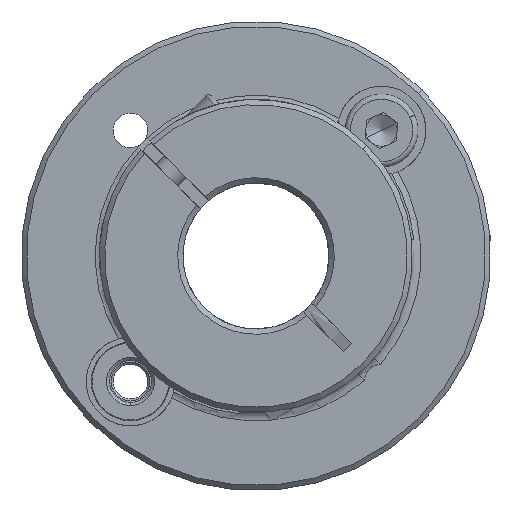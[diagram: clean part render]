
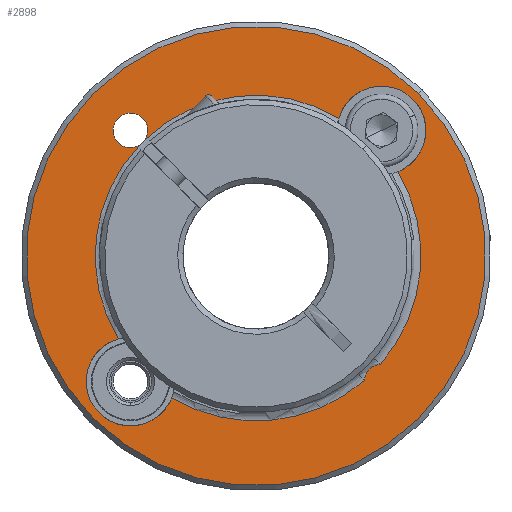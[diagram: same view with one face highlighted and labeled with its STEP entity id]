
A CAD part, front view. The second image highlights one B-rep face of the part: STEP entity #2898.
In plain terms, the highlighted planar face has unit normal (0, -1, 0).
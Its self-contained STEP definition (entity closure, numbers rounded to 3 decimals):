
#21 = ORIENTED_EDGE ( 'NONE', *, *, #5113, .T. ) ;
#34 = ORIENTED_EDGE ( 'NONE', *, *, #2094, .T. ) ;
#45 = VERTEX_POINT ( 'NONE', #7527 ) ;
#93 = DIRECTION ( 'NONE',  ( 0., 1., 0. ) ) ;
#120 = ORIENTED_EDGE ( 'NONE', *, *, #5640, .T. ) ;
#493 = DIRECTION ( 'NONE',  ( 0., -1., 0. ) ) ;
#520 = VERTEX_POINT ( 'NONE', #9230 ) ;
#554 = CIRCLE ( 'NONE', #5476, 1.65 ) ;
#558 = ORIENTED_EDGE ( 'NONE', *, *, #9501, .T. ) ;
#741 = VERTEX_POINT ( 'NONE', #6547 ) ;
#851 = DIRECTION ( 'NONE',  ( 0.707, 0., 0.707 ) ) ;
#1045 = VERTEX_POINT ( 'NONE', #5621 ) ;
#1048 = AXIS2_PLACEMENT_3D ( 'NONE', #6960, #7604, #5450 ) ;
#1092 = ORIENTED_EDGE ( 'NONE', *, *, #6207, .T. ) ;
#1093 = EDGE_CURVE ( 'NONE', #9019, #4302, #4985, .T. ) ;
#1151 = DIRECTION ( 'NONE',  ( 0., 1., 0. ) ) ;
#1235 = DIRECTION ( 'NONE',  ( 0.707, 0., 0.707 ) ) ;
#1354 = AXIS2_PLACEMENT_3D ( 'NONE', #3749, #3713, #6805 ) ;
#1368 = CARTESIAN_POINT ( 'NONE',  ( 17.924, -8.743, 65.536 ) ) ;
#1376 = AXIS2_PLACEMENT_3D ( 'NONE', #5942, #93, #851 ) ;
#1611 = CIRCLE ( 'NONE', #5304, 1.65 ) ;
#1647 = AXIS2_PLACEMENT_3D ( 'NONE', #4201, #7105, #1235 ) ;
#1811 = DIRECTION ( 'NONE',  ( 0.707, 0., 0.707 ) ) ;
#1823 = VERTEX_POINT ( 'NONE', #7981 ) ;
#1833 = DIRECTION ( 'NONE',  ( 0.707, 0., 0.707 ) ) ;
#1853 = CIRCLE ( 'NONE', #9078, 4.25 ) ;
#1887 = AXIS2_PLACEMENT_3D ( 'NONE', #4028, #1151, #3389 ) ;
#1903 = AXIS2_PLACEMENT_3D ( 'NONE', #4468, #6649, #2929 ) ;
#2094 = EDGE_CURVE ( 'NONE', #1823, #9111, #2612, .T. ) ;
#2117 = ORIENTED_EDGE ( 'NONE', *, *, #1093, .T. ) ;
#2122 = AXIS2_PLACEMENT_3D ( 'NONE', #4218, #7892, #3383 ) ;
#2263 = CARTESIAN_POINT ( 'NONE',  ( 2.367, -8.743, 49.979 ) ) ;
#2516 = DIRECTION ( 'NONE',  ( 0.707, 0., 0.707 ) ) ;
#2540 = CARTESIAN_POINT ( 'NONE',  ( -5.701, -8.743, 36.395 ) ) ;
#2575 = VERTEX_POINT ( 'NONE', #8324 ) ;
#2612 = CIRCLE ( 'NONE', #1048, 1.65 ) ;
#2617 = EDGE_CURVE ( 'NONE', #4302, #9019, #8262, .T. ) ;
#2656 = VERTEX_POINT ( 'NONE', #2540 ) ;
#2757 = CARTESIAN_POINT ( 'NONE',  ( 14.388, -8.743, 37.958 ) ) ;
#2898 = ADVANCED_FACE ( 'NONE', ( #7556, #3542 ), #8759, .T. ) ;
#2929 = DIRECTION ( 'NONE',  ( 0.707, 0., 0.707 ) ) ;
#2996 = CARTESIAN_POINT ( 'NONE',  ( 2.367, -8.743, 49.979 ) ) ;
#3031 = DIRECTION ( 'NONE',  ( 0.707, 0., 0.707 ) ) ;
#3104 = CARTESIAN_POINT ( 'NONE',  ( 12.742, -8.743, 38.062 ) ) ;
#3312 = DIRECTION ( 'NONE',  ( 0., 1., 0. ) ) ;
#3326 = ORIENTED_EDGE ( 'NONE', *, *, #6929, .T. ) ;
#3379 = CIRCLE ( 'NONE', #1887, 15.4 ) ;
#3383 = DIRECTION ( 'NONE',  ( -0.989, 0., -0.145 ) ) ;
#3389 = DIRECTION ( 'NONE',  ( 0.707, 0., 0.707 ) ) ;
#3420 = VERTEX_POINT ( 'NONE', #3104 ) ;
#3542 = FACE_OUTER_BOUND ( 'NONE', #6859, .T. ) ;
#3713 = DIRECTION ( 'NONE',  ( 0., 1., 0. ) ) ;
#3728 = AXIS2_PLACEMENT_3D ( 'NONE', #7936, #493, #7245 ) ;
#3749 = CARTESIAN_POINT ( 'NONE',  ( 14.388, -8.743, 62. ) ) ;
#3941 = CIRCLE ( 'NONE', #6792, 15.4 ) ;
#4028 = CARTESIAN_POINT ( 'NONE',  ( 2.367, -8.743, 49.979 ) ) ;
#4088 = CARTESIAN_POINT ( 'NONE',  ( -8.247, -8.743, 61.137 ) ) ;
#4201 = CARTESIAN_POINT ( 'NONE',  ( 2.367, -8.743, 49.979 ) ) ;
#4218 = CARTESIAN_POINT ( 'NONE',  ( 14.388, -8.743, 37.958 ) ) ;
#4302 = VERTEX_POINT ( 'NONE', #1368 ) ;
#4468 = CARTESIAN_POINT ( 'NONE',  ( -9.653, -8.743, 62. ) ) ;
#4638 = EDGE_CURVE ( 'NONE', #3420, #2656, #6910, .T. ) ;
#4718 = DIRECTION ( 'NONE',  ( 0., -1., 0. ) ) ;
#4754 = AXIS2_PLACEMENT_3D ( 'NONE', #8605, #4718, #2516 ) ;
#4799 = ORIENTED_EDGE ( 'NONE', *, *, #4876, .T. ) ;
#4876 = EDGE_CURVE ( 'NONE', #1045, #45, #8212, .T. ) ;
#4945 = EDGE_CURVE ( 'NONE', #2575, #8743, #3941, .T. ) ;
#4985 = CIRCLE ( 'NONE', #3728, 22. ) ;
#5010 = CARTESIAN_POINT ( 'NONE',  ( -8.79, -8.743, 60.594 ) ) ;
#5113 = EDGE_CURVE ( 'NONE', #9111, #520, #3379, .T. ) ;
#5304 = AXIS2_PLACEMENT_3D ( 'NONE', #2757, #6428, #5732 ) ;
#5450 = DIRECTION ( 'NONE',  ( 0.707, 0., 0.707 ) ) ;
#5476 = AXIS2_PLACEMENT_3D ( 'NONE', #8542, #3312, #1833 ) ;
#5621 = CARTESIAN_POINT ( 'NONE',  ( 15.952, -8.743, 58.048 ) ) ;
#5640 = EDGE_CURVE ( 'NONE', #520, #7947, #1853, .T. ) ;
#5732 = DIRECTION ( 'NONE',  ( 0., 0., -1. ) ) ;
#5937 = CARTESIAN_POINT ( 'NONE',  ( -10.82, -8.743, 60.833 ) ) ;
#5942 = CARTESIAN_POINT ( 'NONE',  ( -9.653, -8.743, 37.958 ) ) ;
#5955 = DIRECTION ( 'NONE',  ( 0., 1., 0. ) ) ;
#6207 = EDGE_CURVE ( 'NONE', #7947, #1045, #8078, .T. ) ;
#6281 = CARTESIAN_POINT ( 'NONE',  ( -13.189, -8.743, 34.423 ) ) ;
#6428 = DIRECTION ( 'NONE',  ( 0., -1., 0. ) ) ;
#6547 = CARTESIAN_POINT ( 'NONE',  ( -12.659, -8.743, 34.953 ) ) ;
#6649 = DIRECTION ( 'NONE',  ( 0., 1., 0. ) ) ;
#6683 = DIRECTION ( 'NONE',  ( 0., 1., 0. ) ) ;
#6739 = VERTEX_POINT ( 'NONE', #5937 ) ;
#6792 = AXIS2_PLACEMENT_3D ( 'NONE', #2263, #5955, #8311 ) ;
#6805 = DIRECTION ( 'NONE',  ( 0.707, 0., 0.707 ) ) ;
#6844 = EDGE_CURVE ( 'NONE', #8743, #6739, #554, .T. ) ;
#6859 = EDGE_LOOP ( 'NONE', ( #2117, #8604 ) ) ;
#6910 = CIRCLE ( 'NONE', #1647, 15.8 ) ;
#6929 = EDGE_CURVE ( 'NONE', #45, #3420, #1611, .T. ) ;
#6960 = CARTESIAN_POINT ( 'NONE',  ( -9.653, -8.743, 62. ) ) ;
#6993 = CARTESIAN_POINT ( 'NONE',  ( 17.393, -8.743, 65.005 ) ) ;
#7060 = EDGE_LOOP ( 'NONE', ( #3326, #7700, #558, #9322, #7612, #7509, #9415, #34, #21, #120, #1092, #4799 ) ) ;
#7105 = DIRECTION ( 'NONE',  ( 0., 1., 0. ) ) ;
#7245 = DIRECTION ( 'NONE',  ( 0.707, 0., 0.707 ) ) ;
#7301 = CIRCLE ( 'NONE', #1903, 1.65 ) ;
#7509 = ORIENTED_EDGE ( 'NONE', *, *, #6844, .T. ) ;
#7527 = CARTESIAN_POINT ( 'NONE',  ( 14.285, -8.743, 39.605 ) ) ;
#7556 = FACE_BOUND ( 'NONE', #7060, .T. ) ;
#7576 = DIRECTION ( 'NONE',  ( 0.707, 0., 0.707 ) ) ;
#7584 = EDGE_CURVE ( 'NONE', #6739, #1823, #7301, .T. ) ;
#7604 = DIRECTION ( 'NONE',  ( 0., 1., 0. ) ) ;
#7612 = ORIENTED_EDGE ( 'NONE', *, *, #4945, .T. ) ;
#7700 = ORIENTED_EDGE ( 'NONE', *, *, #4638, .T. ) ;
#7819 = DIRECTION ( 'NONE',  ( 0., 1., 0. ) ) ;
#7892 = DIRECTION ( 'NONE',  ( 0., -1., 0. ) ) ;
#7936 = CARTESIAN_POINT ( 'NONE',  ( 2.367, -8.743, 49.979 ) ) ;
#7947 = VERTEX_POINT ( 'NONE', #6993 ) ;
#7949 = CARTESIAN_POINT ( 'NONE',  ( 14.388, -8.743, 62. ) ) ;
#7981 = CARTESIAN_POINT ( 'NONE',  ( -8.487, -8.743, 63.167 ) ) ;
#8078 = CIRCLE ( 'NONE', #1354, 4.25 ) ;
#8212 = CIRCLE ( 'NONE', #9008, 15.8 ) ;
#8262 = CIRCLE ( 'NONE', #4754, 22. ) ;
#8299 = CARTESIAN_POINT ( 'NONE',  ( -9.653, -8.743, 37.958 ) ) ;
#8311 = DIRECTION ( 'NONE',  ( 0.707, 0., 0.707 ) ) ;
#8324 = CARTESIAN_POINT ( 'NONE',  ( -10.83, -8.743, 42.042 ) ) ;
#8328 = DIRECTION ( 'NONE',  ( 0., 1., 0. ) ) ;
#8542 = CARTESIAN_POINT ( 'NONE',  ( -9.653, -8.743, 62. ) ) ;
#8604 = ORIENTED_EDGE ( 'NONE', *, *, #2617, .T. ) ;
#8605 = CARTESIAN_POINT ( 'NONE',  ( 2.367, -8.743, 49.979 ) ) ;
#8743 = VERTEX_POINT ( 'NONE', #5010 ) ;
#8759 = PLANE ( 'NONE',  #2122 ) ;
#8825 = CIRCLE ( 'NONE', #1376, 4.25 ) ;
#9008 = AXIS2_PLACEMENT_3D ( 'NONE', #2996, #6683, #3031 ) ;
#9019 = VERTEX_POINT ( 'NONE', #6281 ) ;
#9078 = AXIS2_PLACEMENT_3D ( 'NONE', #7949, #7819, #1811 ) ;
#9108 = AXIS2_PLACEMENT_3D ( 'NONE', #8299, #8328, #7576 ) ;
#9111 = VERTEX_POINT ( 'NONE', #4088 ) ;
#9230 = CARTESIAN_POINT ( 'NONE',  ( 10.304, -8.743, 63.176 ) ) ;
#9283 = CIRCLE ( 'NONE', #9108, 4.25 ) ;
#9322 = ORIENTED_EDGE ( 'NONE', *, *, #9381, .T. ) ;
#9381 = EDGE_CURVE ( 'NONE', #741, #2575, #9283, .T. ) ;
#9415 = ORIENTED_EDGE ( 'NONE', *, *, #7584, .T. ) ;
#9501 = EDGE_CURVE ( 'NONE', #2656, #741, #8825, .T. ) ;
